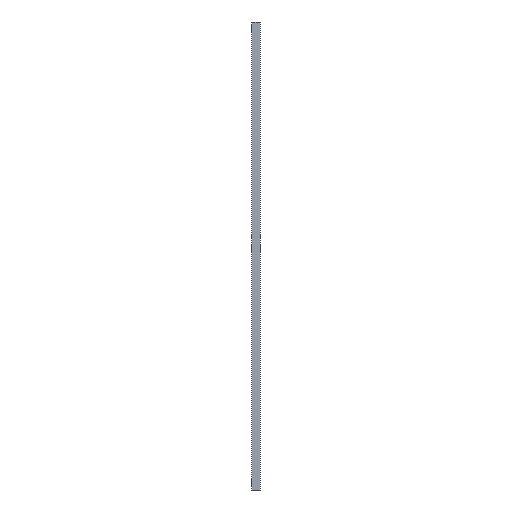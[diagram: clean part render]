
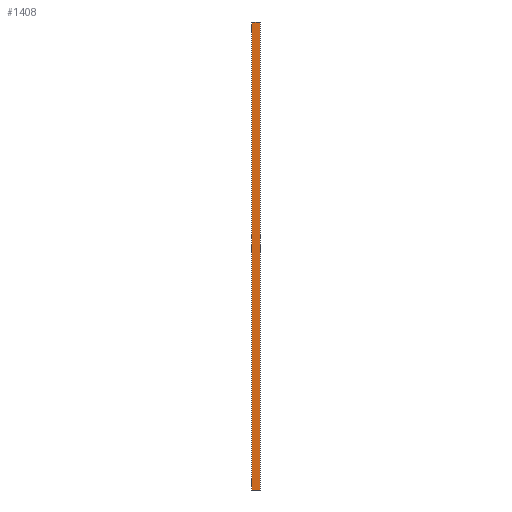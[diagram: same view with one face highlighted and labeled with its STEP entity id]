
A CAD part, left-side view. The second image highlights one B-rep face of the part: STEP entity #1408.
In plain terms, the highlighted planar face has unit normal (-1, 0, 0).
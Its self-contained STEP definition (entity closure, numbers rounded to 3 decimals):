
#38 = DIRECTION ( 'NONE',  ( 0., 1., 0. ) ) ;
#53 = ORIENTED_EDGE ( 'NONE', *, *, #1321, .F. ) ;
#55 = VERTEX_POINT ( 'NONE', #1107 ) ;
#72 = DIRECTION ( 'NONE',  ( 0., 1., 0. ) ) ;
#76 = ORIENTED_EDGE ( 'NONE', *, *, #193, .F. ) ;
#147 = CARTESIAN_POINT ( 'NONE',  ( -8., 12.5, 0. ) ) ;
#190 = DIRECTION ( 'NONE',  ( -1., 0., 0. ) ) ;
#193 = EDGE_CURVE ( 'NONE', #1020, #1070, #1375, .T. ) ;
#233 = EDGE_LOOP ( 'NONE', ( #53, #569, #1180, #686, #360, #982, #1302, #76 ) ) ;
#282 = DIRECTION ( 'NONE',  ( 0., 0., 1. ) ) ;
#318 = CARTESIAN_POINT ( 'NONE',  ( -8., 9.3, 0. ) ) ;
#333 = CARTESIAN_POINT ( 'NONE',  ( -8., 0., 679. ) ) ;
#360 = ORIENTED_EDGE ( 'NONE', *, *, #787, .T. ) ;
#371 = VECTOR ( 'NONE', #72, 1000. ) ;
#398 = CARTESIAN_POINT ( 'NONE',  ( -8., 0., 0. ) ) ;
#423 = VECTOR ( 'NONE', #450, 1000. ) ;
#432 = DIRECTION ( 'NONE',  ( 0., -1., 0. ) ) ;
#435 = CARTESIAN_POINT ( 'NONE',  ( -8., 12.5, 679. ) ) ;
#450 = DIRECTION ( 'NONE',  ( 0., 0., -1. ) ) ;
#451 = VERTEX_POINT ( 'NONE', #548 ) ;
#473 = CARTESIAN_POINT ( 'NONE',  ( -8., 0., 0. ) ) ;
#489 = EDGE_CURVE ( 'NONE', #719, #1070, #776, .T. ) ;
#498 = CARTESIAN_POINT ( 'NONE',  ( -8., 0., 679. ) ) ;
#505 = LINE ( 'NONE', #498, #1084 ) ;
#515 = CARTESIAN_POINT ( 'NONE',  ( -8., 3.2, 0. ) ) ;
#522 = CARTESIAN_POINT ( 'NONE',  ( -8., 12.5, 679. ) ) ;
#545 = VECTOR ( 'NONE', #1292, 1000. ) ;
#548 = CARTESIAN_POINT ( 'NONE',  ( -8., 9.3, 679. ) ) ;
#558 = VERTEX_POINT ( 'NONE', #695 ) ;
#569 = ORIENTED_EDGE ( 'NONE', *, *, #892, .T. ) ;
#686 = ORIENTED_EDGE ( 'NONE', *, *, #752, .F. ) ;
#695 = CARTESIAN_POINT ( 'NONE',  ( -8., 0., 679. ) ) ;
#719 = VERTEX_POINT ( 'NONE', #522 ) ;
#752 = EDGE_CURVE ( 'NONE', #55, #558, #505, .T. ) ;
#770 = VECTOR ( 'NONE', #1176, 1000. ) ;
#776 = LINE ( 'NONE', #435, #423 ) ;
#787 = EDGE_CURVE ( 'NONE', #55, #451, #1398, .T. ) ;
#892 = EDGE_CURVE ( 'NONE', #1406, #1161, #979, .T. ) ;
#902 = LINE ( 'NONE', #473, #1138 ) ;
#934 = FACE_OUTER_BOUND ( 'NONE', #233, .T. ) ;
#945 = DIRECTION ( 'NONE',  ( 0., -1., 0. ) ) ;
#961 = CARTESIAN_POINT ( 'NONE',  ( -8., 12.5, 679. ) ) ;
#979 = LINE ( 'NONE', #1404, #1017 ) ;
#982 = ORIENTED_EDGE ( 'NONE', *, *, #1000, .T. ) ;
#989 = CARTESIAN_POINT ( 'NONE',  ( -8., 0., 0. ) ) ;
#1000 = EDGE_CURVE ( 'NONE', #451, #719, #1065, .T. ) ;
#1017 = VECTOR ( 'NONE', #432, 1000. ) ;
#1020 = VERTEX_POINT ( 'NONE', #318 ) ;
#1065 = LINE ( 'NONE', #961, #770 ) ;
#1070 = VERTEX_POINT ( 'NONE', #147 ) ;
#1084 = VECTOR ( 'NONE', #945, 1000. ) ;
#1087 = DIRECTION ( 'NONE',  ( 0., 0., -1. ) ) ;
#1107 = CARTESIAN_POINT ( 'NONE',  ( -8., 3.2, 679. ) ) ;
#1138 = VECTOR ( 'NONE', #38, 1000. ) ;
#1153 = PLANE ( 'NONE',  #1230 ) ;
#1161 = VERTEX_POINT ( 'NONE', #989 ) ;
#1176 = DIRECTION ( 'NONE',  ( 0., 1., 0. ) ) ;
#1180 = ORIENTED_EDGE ( 'NONE', *, *, #1205, .F. ) ;
#1205 = EDGE_CURVE ( 'NONE', #558, #1161, #1206, .T. ) ;
#1206 = LINE ( 'NONE', #1312, #1325 ) ;
#1230 = AXIS2_PLACEMENT_3D ( 'NONE', #1378, #190, #282 ) ;
#1292 = DIRECTION ( 'NONE',  ( 0., 1., 0. ) ) ;
#1302 = ORIENTED_EDGE ( 'NONE', *, *, #489, .T. ) ;
#1312 = CARTESIAN_POINT ( 'NONE',  ( -8., 0., 679. ) ) ;
#1321 = EDGE_CURVE ( 'NONE', #1406, #1020, #902, .T. ) ;
#1325 = VECTOR ( 'NONE', #1087, 1000. ) ;
#1375 = LINE ( 'NONE', #398, #371 ) ;
#1378 = CARTESIAN_POINT ( 'NONE',  ( -8., 0., 679. ) ) ;
#1398 = LINE ( 'NONE', #333, #545 ) ;
#1404 = CARTESIAN_POINT ( 'NONE',  ( -8., 0., 0. ) ) ;
#1406 = VERTEX_POINT ( 'NONE', #515 ) ;
#1408 = ADVANCED_FACE ( 'NONE', ( #934 ), #1153, .T. ) ;
